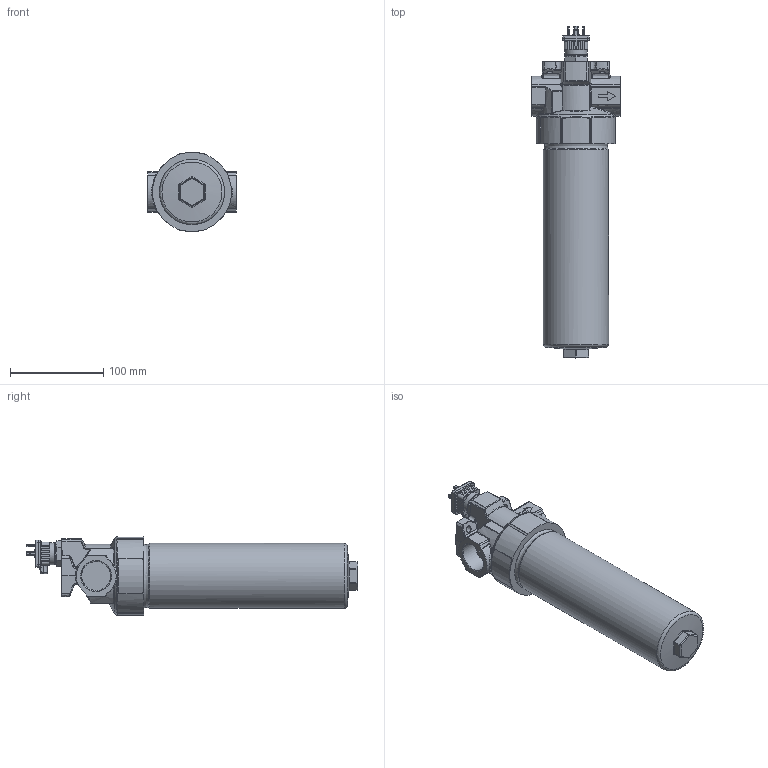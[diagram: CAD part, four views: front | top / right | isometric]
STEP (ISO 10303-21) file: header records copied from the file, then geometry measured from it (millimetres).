
FILE_DESCRIPTION((''),'2;1');
FILE_NAME('U:\Users\i.maeder\34313200_D152-186ED8.stp', '2016-08-29T09:51:59',('User'),('SDRC'),'I-DEAS Master Series 9','UNIX', 'Yes');
FILE_SCHEMA(('AUTOMOTIVE_DESIGN { 1 0 10303 214 1 1 1 1 }'));
Length unit declared in the file: millimetre
Products named in the file (1): 34313200
Bounding box: 95 x 356.9 x 84.95 mm (x, y, z)
Volume: 1240772.3 mm3; surface area: 95500.6 mm2
Topology: 1 solids, 1 shells, 1047 faces, 2856 edges, 1810 vertices
Faces by surface type: bspline 1047
Entity records: 44707 total; most frequent: CARTESIAN_POINT 28533, ORIENTED_EDGE 5644, EDGE_CURVE 2822, VERTEX_POINT 1810, B_SPLINE_CURVE_WITH_KNOTS 1712, EDGE_LOOP 1094, FACE_OUTER_BOUND 1047, ADVANCED_FACE 1047
